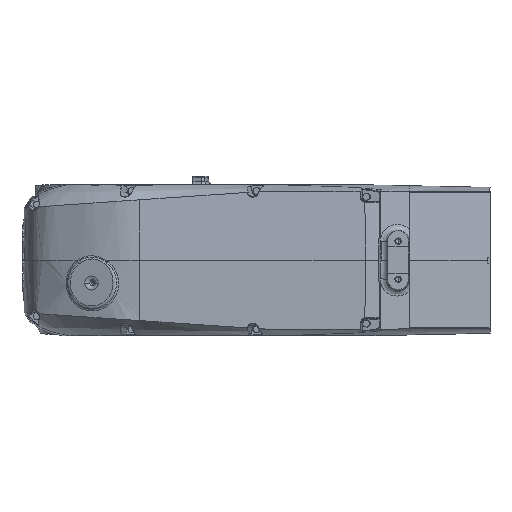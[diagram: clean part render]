
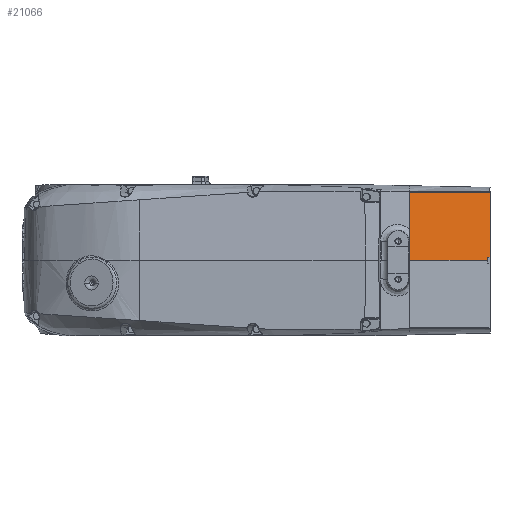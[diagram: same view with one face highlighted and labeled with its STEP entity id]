
A CAD part, top view. The second image highlights one B-rep face of the part: STEP entity #21066.
In plain terms, the highlighted planar face has unit normal (0.179, 0.035, 0.983).
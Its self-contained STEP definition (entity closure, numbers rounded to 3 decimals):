
#1816 = CARTESIAN_POINT ( 'NONE',  ( 288.5, 53.246, 945.301 ) ) ;
#1911 = CARTESIAN_POINT ( 'NONE',  ( 225., 0., 958.736 ) ) ;
#1987 = CARTESIAN_POINT ( 'NONE',  ( 286.5, 2.33, 947.472 ) ) ;
#2044 = CARTESIAN_POINT ( 'NONE',  ( 225., 53.312, 956.844 ) ) ;
#8931 = EDGE_LOOP ( 'NONE', ( #9765, #9546, #10419, #9562, #10379, #9927 ) ) ;
#9539 = VERTEX_POINT ( 'NONE', #21291 ) ;
#9546 = ORIENTED_EDGE ( 'NONE', *, *, #29063, .T. ) ;
#9562 = ORIENTED_EDGE ( 'NONE', *, *, #29061, .T. ) ;
#9765 = ORIENTED_EDGE ( 'NONE', *, *, #29085, .F. ) ;
#9821 = VERTEX_POINT ( 'NONE', #2044 ) ;
#9927 = ORIENTED_EDGE ( 'NONE', *, *, #29058, .T. ) ;
#9941 = VERTEX_POINT ( 'NONE', #1987 ) ;
#10027 = VERTEX_POINT ( 'NONE', #1911 ) ;
#10120 = VERTEX_POINT ( 'NONE', #1816 ) ;
#10379 = ORIENTED_EDGE ( 'NONE', *, *, #29057, .T. ) ;
#10419 = ORIENTED_EDGE ( 'NONE', *, *, #29092, .F. ) ;
#10552 = FACE_OUTER_BOUND ( 'NONE', #8931, .T. ) ;
#10558 = VERTEX_POINT ( 'NONE', #18092 ) ;
#11189 = LINE ( 'NONE', #18846, #11191 ) ;
#11190 = LINE ( 'NONE', #18871, #11200 ) ;
#11191 = VECTOR ( 'NONE', #18842, 1000. ) ;
#11194 = LINE ( 'NONE', #18867, #11197 ) ;
#11197 = VECTOR ( 'NONE', #18868, 1000. ) ;
#11200 = VECTOR ( 'NONE', #18851, 1000. ) ;
#11218 = LINE ( 'NONE', #18974, #11221 ) ;
#11221 = VECTOR ( 'NONE', #18975, 1000. ) ;
#11229 = LINE ( 'NONE', #18997, #11230 ) ;
#11230 = VECTOR ( 'NONE', #18998, 1000. ) ;
#15461 = B_SPLINE_CURVE_WITH_KNOTS ( 'NONE', 3,
 ( #18850, #18845, #18852, #18853, #18854, #18855, #18856, #18857, #18858, #18859, #18860, #18861, #18862 ),
 .UNSPECIFIED., .F., .F.,
 ( 4, 2, 1, 2, 2, 2, 4 ),
 ( 0., 0.004, 0.008, 0.016, 0.024, 0.032, 0.065 ),
 .UNSPECIFIED. ) ;
#18092 = CARTESIAN_POINT ( 'NONE',  ( 288.5, 2.4, 947.106 ) ) ;
#18842 = DIRECTION ( 'NONE',  ( 0., 0.999, -0.035 ) ) ;
#18845 = CARTESIAN_POINT ( 'NONE',  ( 287.177, 53.247, 945.542 ) ) ;
#18846 = CARTESIAN_POINT ( 'NONE',  ( 288.5, -0.635, 947.213 ) ) ;
#18850 = CARTESIAN_POINT ( 'NONE',  ( 288.5, 53.246, 945.301 ) ) ;
#18851 = DIRECTION ( 'NONE',  ( 0.984, 0., -0.179 ) ) ;
#18852 = CARTESIAN_POINT ( 'NONE',  ( 285.854, 53.257, 945.782 ) ) ;
#18853 = CARTESIAN_POINT ( 'NONE',  ( 283.208, 53.271, 946.262 ) ) ;
#18854 = CARTESIAN_POINT ( 'NONE',  ( 279.239, 53.295, 946.983 ) ) ;
#18855 = CARTESIAN_POINT ( 'NONE',  ( 275.271, 53.321, 947.704 ) ) ;
#18856 = CARTESIAN_POINT ( 'NONE',  ( 269.979, 53.346, 948.665 ) ) ;
#18857 = CARTESIAN_POINT ( 'NONE',  ( 267.333, 53.353, 949.146 ) ) ;
#18858 = CARTESIAN_POINT ( 'NONE',  ( 262.041, 53.349, 950.108 ) ) ;
#18859 = CARTESIAN_POINT ( 'NONE',  ( 259.396, 53.343, 950.589 ) ) ;
#18860 = CARTESIAN_POINT ( 'NONE',  ( 246.167, 53.322, 952.995 ) ) ;
#18861 = CARTESIAN_POINT ( 'NONE',  ( 235.583, 53.311, 954.92 ) ) ;
#18862 = CARTESIAN_POINT ( 'NONE',  ( 225., 53.312, 956.844 ) ) ;
#18867 = CARTESIAN_POINT ( 'NONE',  ( 190.042, -1.038, 965.129 ) ) ;
#18868 = DIRECTION ( 'NONE',  ( 0.983, 0.034, -0.18 ) ) ;
#18871 = CARTESIAN_POINT ( 'NONE',  ( 190., 0., 965.1 ) ) ;
#18974 = CARTESIAN_POINT ( 'NONE',  ( 225., -0.226, 958.744 ) ) ;
#18975 = DIRECTION ( 'NONE',  ( 0., 0.999, -0.035 ) ) ;
#18997 = CARTESIAN_POINT ( 'NONE',  ( 286.5, -0.622, 947.577 ) ) ;
#18998 = DIRECTION ( 'NONE',  ( 0., -0.999, 0.035 ) ) ;
#21066 = ADVANCED_FACE ( 'NONE', ( #10552 ), #24987, .T. ) ;
#21291 = CARTESIAN_POINT ( 'NONE',  ( 286.5, 0., 947.555 ) ) ;
#24981 = CARTESIAN_POINT ( 'NONE',  ( 190., 0., 965.1 ) ) ;
#24987 = PLANE ( 'NONE',  #28467 ) ;
#24989 = DIRECTION ( 'NONE',  ( 0.179, 0.035, 0.983 ) ) ;
#24990 = DIRECTION ( 'NONE',  ( 0.984, 0., -0.179 ) ) ;
#28467 = AXIS2_PLACEMENT_3D ( 'NONE', #24981, #24989, #24990 ) ;
#29057 = EDGE_CURVE ( 'NONE', #10558, #10120, #11189, .T. ) ;
#29058 = EDGE_CURVE ( 'NONE', #10120, #9821, #15461, .T. ) ;
#29061 = EDGE_CURVE ( 'NONE', #9941, #10558, #11194, .T. ) ;
#29063 = EDGE_CURVE ( 'NONE', #10027, #9539, #11190, .T. ) ;
#29085 = EDGE_CURVE ( 'NONE', #10027, #9821, #11218, .T. ) ;
#29092 = EDGE_CURVE ( 'NONE', #9941, #9539, #11229, .T. ) ;
